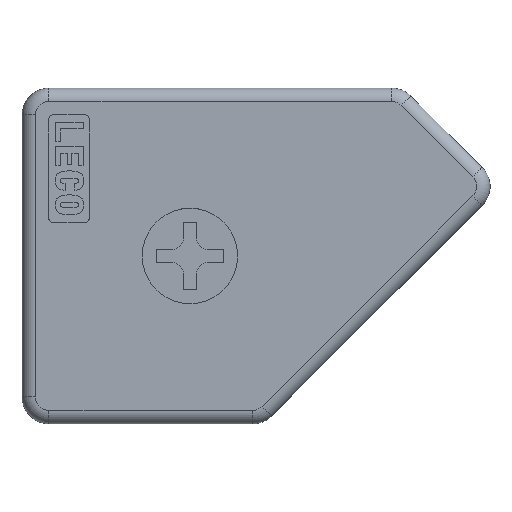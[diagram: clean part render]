
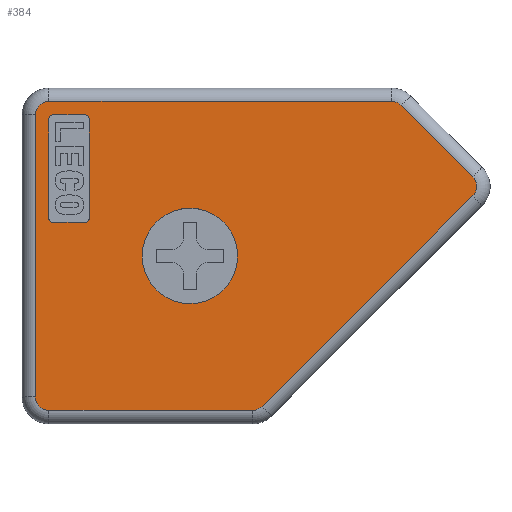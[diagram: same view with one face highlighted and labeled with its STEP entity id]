
A CAD part, top view. The second image highlights one B-rep face of the part: STEP entity #384.
In plain terms, the highlighted planar face has unit normal (0, 0, 1).
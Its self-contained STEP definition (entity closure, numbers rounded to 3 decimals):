
#384=ADVANCED_FACE('',(#798,#799,#800),#801,.F.);
#798=FACE_BOUND('',#1236,.T.);
#799=FACE_BOUND('',#1237,.T.);
#800=FACE_OUTER_BOUND('',#1238,.T.);
#801=PLANE('',#1239);
#1236=EDGE_LOOP('',(#2351));
#1237=EDGE_LOOP('',(#2352,#2353,#2354,#2355,#2356,#2357,#2358,#2359));
#1238=EDGE_LOOP('',(#2360,#2361,#2362,#2363,#2364,#2365,#2366,#2367,#2368,#2369));
#1239=AXIS2_PLACEMENT_3D('',#2370,#2371,#2372);
#2351=ORIENTED_EDGE('',*,*,#2991,.F.);
#2352=ORIENTED_EDGE('',*,*,#3091,.F.);
#2353=ORIENTED_EDGE('',*,*,#2843,.F.);
#2354=ORIENTED_EDGE('',*,*,#2945,.F.);
#2355=ORIENTED_EDGE('',*,*,#2848,.F.);
#2356=ORIENTED_EDGE('',*,*,#2970,.F.);
#2357=ORIENTED_EDGE('',*,*,#2948,.F.);
#2358=ORIENTED_EDGE('',*,*,#3092,.F.);
#2359=ORIENTED_EDGE('',*,*,#2673,.F.);
#2360=ORIENTED_EDGE('',*,*,#2670,.T.);
#2361=ORIENTED_EDGE('',*,*,#3093,.T.);
#2362=ORIENTED_EDGE('',*,*,#3094,.T.);
#2363=ORIENTED_EDGE('',*,*,#2803,.T.);
#2364=ORIENTED_EDGE('',*,*,#3095,.T.);
#2365=ORIENTED_EDGE('',*,*,#2879,.F.);
#2366=ORIENTED_EDGE('',*,*,#3037,.T.);
#2367=ORIENTED_EDGE('',*,*,#3096,.F.);
#2368=ORIENTED_EDGE('',*,*,#2735,.T.);
#2369=ORIENTED_EDGE('',*,*,#2631,.F.);
#2370=CARTESIAN_POINT('',(0.,-25.0,3.));
#2371=DIRECTION('',(0.0,0.0,-1.0));
#2372=DIRECTION('',(0.0,-1.0,0.0));
#2631=EDGE_CURVE('',#3141,#3143,#3144,.T.);
#2670=EDGE_CURVE('',#3141,#3211,#3213,.T.);
#2673=EDGE_CURVE('',#3216,#3217,#3218,.T.);
#2735=EDGE_CURVE('',#3319,#3143,#3322,.T.);
#2803=EDGE_CURVE('',#3435,#3433,#3436,.T.);
#2843=EDGE_CURVE('',#3499,#3500,#3501,.T.);
#2848=EDGE_CURVE('',#3508,#3509,#3510,.T.);
#2879=EDGE_CURVE('',#3556,#3558,#3559,.T.);
#2945=EDGE_CURVE('',#3509,#3499,#3650,.T.);
#2948=EDGE_CURVE('',#3653,#3654,#3655,.T.);
#2970=EDGE_CURVE('',#3654,#3508,#3687,.T.);
#2991=EDGE_CURVE('',#3715,#3715,#3716,.T.);
#3037=EDGE_CURVE('',#3556,#3776,#3778,.T.);
#3091=EDGE_CURVE('',#3500,#3216,#3841,.T.);
#3092=EDGE_CURVE('',#3217,#3653,#3842,.T.);
#3093=EDGE_CURVE('',#3211,#3843,#3844,.T.);
#3094=EDGE_CURVE('',#3843,#3435,#3845,.T.);
#3095=EDGE_CURVE('',#3433,#3558,#3846,.T.);
#3096=EDGE_CURVE('',#3319,#3776,#3847,.T.);
#3141=VERTEX_POINT('',#3893);
#3143=VERTEX_POINT('',#3895);
#3144=LINE('',#3896,#3897);
#3211=VERTEX_POINT('',#3990);
#3213=CIRCLE('',#3992,1.);
#3216=VERTEX_POINT('',#3995);
#3217=VERTEX_POINT('',#3996);
#3218=LINE('',#3997,#3998);
#3319=VERTEX_POINT('',#4156);
#3322=CIRCLE('',#4159,1.);
#3433=VERTEX_POINT('',#4299);
#3435=VERTEX_POINT('',#4301);
#3436=LINE('',#4302,#4303);
#3499=VERTEX_POINT('',#4383);
#3500=VERTEX_POINT('',#4384);
#3501=LINE('',#4385,#4386);
#3508=VERTEX_POINT('',#4396);
#3509=VERTEX_POINT('',#4397);
#3510=LINE('',#4398,#4399);
#3556=VERTEX_POINT('',#4463);
#3558=VERTEX_POINT('',#4465);
#3559=LINE('',#4466,#4467);
#3650=CIRCLE('',#4602,0.3);
#3653=VERTEX_POINT('',#4605);
#3654=VERTEX_POINT('',#4606);
#3655=LINE('',#4607,#4608);
#3687=CIRCLE('',#4659,0.3);
#3715=VERTEX_POINT('',#4697);
#3716=CIRCLE('',#4698,3.55);
#3776=VERTEX_POINT('',#4782);
#3778=CIRCLE('',#4784,1.0);
#3841=CIRCLE('',#4875,0.3);
#3842=CIRCLE('',#4876,0.3);
#3843=VERTEX_POINT('',#4877);
#3844=LINE('',#4878,#4879);
#3845=CIRCLE('',#4880,1.);
#3846=CIRCLE('',#4881,1.0);
#3847=LINE('',#4882,#4883);
#3893=CARTESIAN_POINT('',(2.,-1.,3.));
#3895=CARTESIAN_POINT('',(27.527,-1.,3.));
#3896=CARTESIAN_POINT('',(0.,-1.,3.));
#3897=VECTOR('',#4937,1.0);
#3990=CARTESIAN_POINT('',(1.,-2.,3.));
#3992=AXIS2_PLACEMENT_3D('',#4982,#4983,#4984);
#3995=CARTESIAN_POINT('',(5.,-9.7,3.));
#3996=CARTESIAN_POINT('',(5.,-2.3,3.));
#3997=CARTESIAN_POINT('',(5.,-9.7,3.));
#3998=VECTOR('',#4988,1.0);
#4156=CARTESIAN_POINT('',(28.234,-1.293,3.));
#4159=AXIS2_PLACEMENT_3D('',#5074,#5075,#5076);
#4299=CARTESIAN_POINT('',(17.172,-24.,3.));
#4301=CARTESIAN_POINT('',(2.,-24.,3.));
#4302=CARTESIAN_POINT('',(0.,-24.,3.));
#4303=VECTOR('',#5181,1.0);
#4383=CARTESIAN_POINT('',(2.3,-10.,3.));
#4384=CARTESIAN_POINT('',(4.7,-10.,3.));
#4385=CARTESIAN_POINT('',(2.3,-10.,3.));
#4386=VECTOR('',#5241,1.0);
#4396=CARTESIAN_POINT('',(2.,-2.3,3.));
#4397=CARTESIAN_POINT('',(2.,-9.7,3.));
#4398=CARTESIAN_POINT('',(2.,-2.3,3.));
#4399=VECTOR('',#5245,1.0);
#4463=CARTESIAN_POINT('',(33.556,-8.029,3.));
#4465=CARTESIAN_POINT('',(17.879,-23.707,3.));
#4466=CARTESIAN_POINT('',(8.293,-33.293,3.));
#4467=VECTOR('',#5286,1.0);
#4602=AXIS2_PLACEMENT_3D('',#5353,#5354,#5355);
#4605=CARTESIAN_POINT('',(4.7,-2.,3.));
#4606=CARTESIAN_POINT('',(2.3,-2.,3.));
#4607=CARTESIAN_POINT('',(4.7,-2.,3.));
#4608=VECTOR('',#5359,1.0);
#4659=AXIS2_PLACEMENT_3D('',#5374,#5375,#5376);
#4697=CARTESIAN_POINT('',(8.95,-12.5,3.));
#4698=AXIS2_PLACEMENT_3D('',#5399,#5400,#5401);
#4782=CARTESIAN_POINT('',(33.556,-6.615,3.));
#4784=AXIS2_PLACEMENT_3D('',#5447,#5448,#5449);
#4875=AXIS2_PLACEMENT_3D('',#5511,#5512,#5513);
#4876=AXIS2_PLACEMENT_3D('',#5514,#5515,#5516);
#4877=CARTESIAN_POINT('',(1.,-23.0,3.));
#4878=CARTESIAN_POINT('',(1.,0.,3.));
#4879=VECTOR('',#5517,1.0);
#4880=AXIS2_PLACEMENT_3D('',#5518,#5519,#5520);
#4881=AXIS2_PLACEMENT_3D('',#5521,#5522,#5523);
#4882=CARTESIAN_POINT('',(25.971,0.971,3.));
#4883=VECTOR('',#5524,1.0);
#4937=DIRECTION('',(1.0,0.0,0.0));
#4982=CARTESIAN_POINT('',(2.,-2.,3.));
#4983=DIRECTION('',(0.0,0.0,1.0));
#4984=DIRECTION('',(0.0,-1.0,0.0));
#4988=DIRECTION('',(0.0,1.0,0.0));
#5074=CARTESIAN_POINT('',(27.527,-2.,3.));
#5075=DIRECTION('',(0.0,0.0,1.0));
#5076=DIRECTION('',(0.0,-1.0,0.0));
#5181=DIRECTION('',(1.0,0.0,0.0));
#5241=DIRECTION('',(1.0,0.0,0.0));
#5245=DIRECTION('',(0.0,-1.0,0.0));
#5286=DIRECTION('',(-0.707,-0.707,0.0));
#5353=CARTESIAN_POINT('',(2.3,-9.7,3.));
#5354=DIRECTION('',(0.0,0.0,1.0));
#5355=DIRECTION('',(0.0,-1.0,0.0));
#5359=DIRECTION('',(-1.0,0.,0.0));
#5374=CARTESIAN_POINT('',(2.3,-2.3,3.));
#5375=DIRECTION('',(0.0,0.0,1.0));
#5376=DIRECTION('',(0.0,-1.0,0.0));
#5399=CARTESIAN_POINT('',(12.5,-12.5,3.));
#5400=DIRECTION('',(0.0,0.0,1.0));
#5401=DIRECTION('',(-1.0,0.0,0.0));
#5447=CARTESIAN_POINT('',(32.849,-7.322,3.));
#5448=DIRECTION('',(0.0,0.0,1.0));
#5449=DIRECTION('',(0.0,-1.0,0.0));
#5511=CARTESIAN_POINT('',(4.7,-9.7,3.));
#5512=DIRECTION('',(0.0,0.0,1.0));
#5513=DIRECTION('',(0.0,-1.0,0.0));
#5514=CARTESIAN_POINT('',(4.7,-2.3,3.));
#5515=DIRECTION('',(0.0,0.0,1.0));
#5516=DIRECTION('',(0.0,-1.0,0.0));
#5517=DIRECTION('',(0.0,-1.0,0.0));
#5518=CARTESIAN_POINT('',(2.,-23.0,3.));
#5519=DIRECTION('',(0.0,0.0,1.0));
#5520=DIRECTION('',(0.0,-1.0,0.0));
#5521=CARTESIAN_POINT('',(17.172,-23.0,3.));
#5522=DIRECTION('',(0.0,0.0,1.0));
#5523=DIRECTION('',(0.0,-1.0,0.0));
#5524=DIRECTION('',(0.707,-0.707,0.0));
